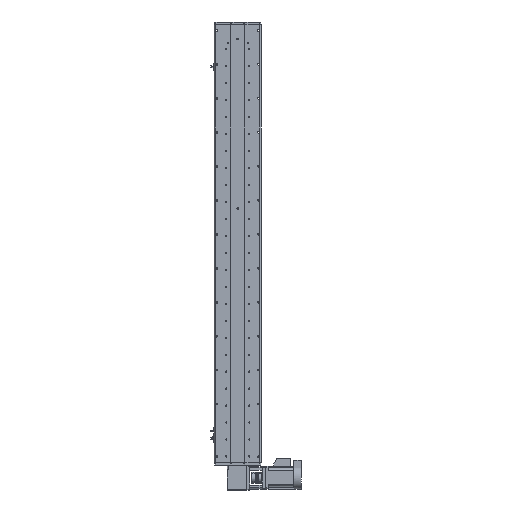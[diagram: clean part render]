
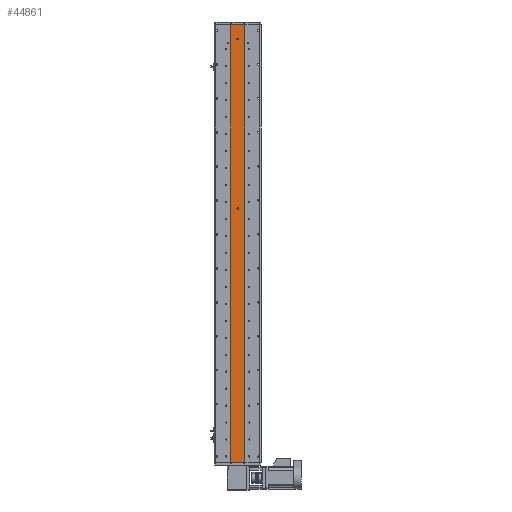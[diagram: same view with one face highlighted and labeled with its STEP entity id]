
A CAD part, front view. The second image highlights one B-rep face of the part: STEP entity #44861.
In plain terms, the highlighted planar face has unit normal (0, -1, 0).
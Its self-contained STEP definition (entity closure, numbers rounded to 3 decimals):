
#1004 = EDGE_LOOP ( 'NONE', ( #18612, #20944 ) ) ;
#1553 = EDGE_CURVE ( 'NONE', #12936, #51091, #8375, .T. ) ;
#2655 = CARTESIAN_POINT ( 'NONE',  ( 25., 1., -773.5 ) ) ;
#2686 = PLANE ( 'NONE',  #9036 ) ;
#3258 = VERTEX_POINT ( 'NONE', #43894 ) ;
#4922 = LINE ( 'NONE', #17058, #15452 ) ;
#5395 = EDGE_CURVE ( 'NONE', #10777, #3258, #36020, .T. ) ;
#6112 = EDGE_CURVE ( 'NONE', #10777, #50078, #43347, .T. ) ;
#6676 = CARTESIAN_POINT ( 'NONE',  ( 25., 1., 773.5 ) ) ;
#7039 = DIRECTION ( 'NONE',  ( 0., -1., 0. ) ) ;
#7319 = EDGE_LOOP ( 'NONE', ( #23811, #26440 ) ) ;
#8375 = CIRCLE ( 'NONE', #27502, 3. ) ;
#9036 = AXIS2_PLACEMENT_3D ( 'NONE', #6676, #26130, #10693 ) ;
#9424 = EDGE_CURVE ( 'NONE', #51091, #12936, #44540, .T. ) ;
#10296 = AXIS2_PLACEMENT_3D ( 'NONE', #30857, #7039, #34849 ) ;
#10693 = DIRECTION ( 'NONE',  ( 0., 0., 1. ) ) ;
#10777 = VERTEX_POINT ( 'NONE', #28184 ) ;
#11915 = CARTESIAN_POINT ( 'NONE',  ( -25., 1., 773.5 ) ) ;
#12886 = CARTESIAN_POINT ( 'NONE',  ( 0., 1., 723.5 ) ) ;
#12936 = VERTEX_POINT ( 'NONE', #15444 ) ;
#14416 = DIRECTION ( 'NONE',  ( 0., 0., -1. ) ) ;
#15210 = VERTEX_POINT ( 'NONE', #2655 ) ;
#15444 = CARTESIAN_POINT ( 'NONE',  ( 0., 1., 126.5 ) ) ;
#15452 = VECTOR ( 'NONE', #40896, 1000. ) ;
#16836 = DIRECTION ( 'NONE',  ( 0., 0., -1. ) ) ;
#17058 = CARTESIAN_POINT ( 'NONE',  ( 25., 1., 773.5 ) ) ;
#18612 = ORIENTED_EDGE ( 'NONE', *, *, #9424, .F. ) ;
#19739 = CARTESIAN_POINT ( 'NONE',  ( 0., 1., 723.5 ) ) ;
#20944 = ORIENTED_EDGE ( 'NONE', *, *, #1553, .F. ) ;
#22487 = DIRECTION ( 'NONE',  ( 1., 0., 0. ) ) ;
#22522 = EDGE_CURVE ( 'NONE', #3258, #15210, #4922, .T. ) ;
#22605 = CARTESIAN_POINT ( 'NONE',  ( 25., 1., 773.5 ) ) ;
#22737 = CARTESIAN_POINT ( 'NONE',  ( 0., 1., 726.5 ) ) ;
#22829 = LINE ( 'NONE', #44269, #42723 ) ;
#23196 = FACE_OUTER_BOUND ( 'NONE', #26683, .T. ) ;
#23761 = DIRECTION ( 'NONE',  ( 0., 0., -1. ) ) ;
#23811 = ORIENTED_EDGE ( 'NONE', *, *, #37817, .F. ) ;
#24443 = DIRECTION ( 'NONE',  ( 1., 0., 0. ) ) ;
#25190 = DIRECTION ( 'NONE',  ( 0., 0., -1. ) ) ;
#25874 = DIRECTION ( 'NONE',  ( 0., -1., 0. ) ) ;
#26034 = CARTESIAN_POINT ( 'NONE',  ( 0., 1., 123.5 ) ) ;
#26130 = DIRECTION ( 'NONE',  ( 0., 1., 0. ) ) ;
#26440 = ORIENTED_EDGE ( 'NONE', *, *, #39040, .F. ) ;
#26679 = VECTOR ( 'NONE', #22487, 1000. ) ;
#26683 = EDGE_LOOP ( 'NONE', ( #32357, #34199, #34780, #37737 ) ) ;
#27502 = AXIS2_PLACEMENT_3D ( 'NONE', #26034, #25874, #25190 ) ;
#28184 = CARTESIAN_POINT ( 'NONE',  ( -25., 1., 773.5 ) ) ;
#28421 = CIRCLE ( 'NONE', #50036, 3. ) ;
#30857 = CARTESIAN_POINT ( 'NONE',  ( 0., 1., 123.5 ) ) ;
#32357 = ORIENTED_EDGE ( 'NONE', *, *, #37905, .T. ) ;
#33803 = FACE_BOUND ( 'NONE', #1004, .T. ) ;
#34199 = ORIENTED_EDGE ( 'NONE', *, *, #22522, .F. ) ;
#34213 = CARTESIAN_POINT ( 'NONE',  ( 0., 1., 720.5 ) ) ;
#34396 = CARTESIAN_POINT ( 'NONE',  ( -25., 1., -773.5 ) ) ;
#34702 = AXIS2_PLACEMENT_3D ( 'NONE', #19739, #47567, #23761 ) ;
#34780 = ORIENTED_EDGE ( 'NONE', *, *, #5395, .F. ) ;
#34849 = DIRECTION ( 'NONE',  ( 0., 0., -1. ) ) ;
#34885 = VERTEX_POINT ( 'NONE', #34213 ) ;
#36020 = LINE ( 'NONE', #22605, #26679 ) ;
#36587 = CIRCLE ( 'NONE', #34702, 3. ) ;
#37737 = ORIENTED_EDGE ( 'NONE', *, *, #6112, .T. ) ;
#37817 = EDGE_CURVE ( 'NONE', #34885, #49131, #36587, .T. ) ;
#37905 = EDGE_CURVE ( 'NONE', #50078, #15210, #22829, .T. ) ;
#39040 = EDGE_CURVE ( 'NONE', #49131, #34885, #28421, .T. ) ;
#40683 = DIRECTION ( 'NONE',  ( 0., -1., 0. ) ) ;
#40896 = DIRECTION ( 'NONE',  ( 0., 0., -1. ) ) ;
#42115 = VECTOR ( 'NONE', #14416, 1000. ) ;
#42244 = CARTESIAN_POINT ( 'NONE',  ( 0., 1., 120.5 ) ) ;
#42723 = VECTOR ( 'NONE', #24443, 1000. ) ;
#43347 = LINE ( 'NONE', #11915, #42115 ) ;
#43894 = CARTESIAN_POINT ( 'NONE',  ( 25., 1., 773.5 ) ) ;
#44269 = CARTESIAN_POINT ( 'NONE',  ( 25., 1., -773.5 ) ) ;
#44358 = FACE_BOUND ( 'NONE', #7319, .T. ) ;
#44540 = CIRCLE ( 'NONE', #10296, 3. ) ;
#44861 = ADVANCED_FACE ( 'NONE', ( #33803, #44358, #23196 ), #2686, .F. ) ;
#47567 = DIRECTION ( 'NONE',  ( 0., -1., 0. ) ) ;
#49131 = VERTEX_POINT ( 'NONE', #22737 ) ;
#50036 = AXIS2_PLACEMENT_3D ( 'NONE', #12886, #40683, #16836 ) ;
#50078 = VERTEX_POINT ( 'NONE', #34396 ) ;
#51091 = VERTEX_POINT ( 'NONE', #42244 ) ;
